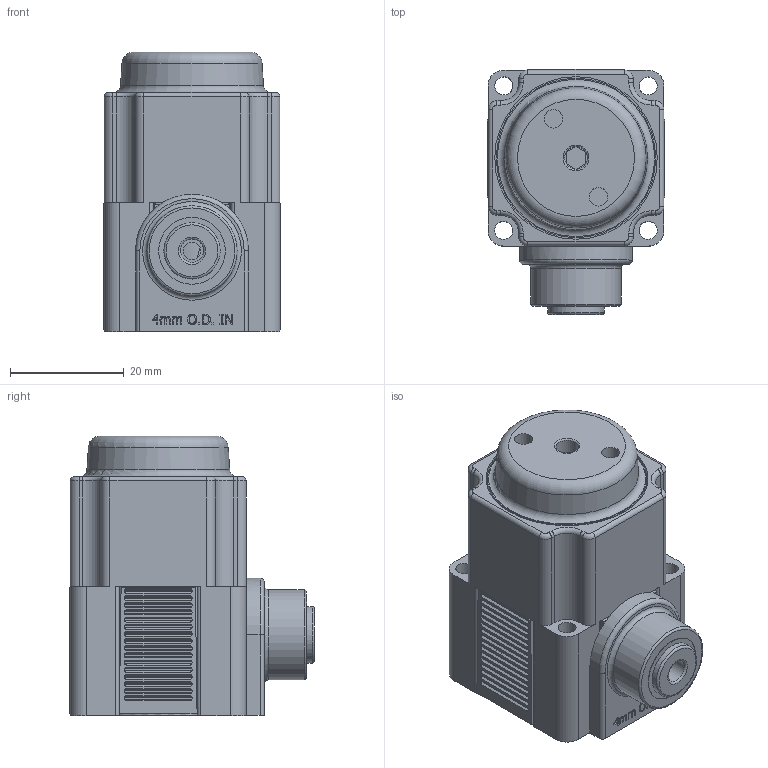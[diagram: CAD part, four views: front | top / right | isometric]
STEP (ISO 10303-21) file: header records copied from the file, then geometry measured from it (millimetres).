
FILE_DESCRIPTION(/* description */ (''),/* implementation_level */ '2;1');
FILE_NAME(/* name */ 'K:\Normteile INVENTOR\Air-Logic\Regulators\PR7000\PR 7___ 7 Push-In Fitting for 4mm O.D Tube In.igs.ipt.stp',/* time_stamp */ '2020-05-27T10:54:13+02:00',/* author */ ('Paul'),/* organization */ (''),/* preprocessor_version */ 'ST-DEVELOPER v18',/* originating_system */ 'Autodesk Inventor 2020',/* authorisation */ '');
FILE_SCHEMA (('AUTOMOTIVE_DESIGN { 1 0 10303 214 3 1 1 }'));
Length unit declared in the file: inch
Products named in the file (1): PR 7___ 7 Push-In Fitting for 4mm O.D Tube In.igs
Bounding box: 31.19 x 43.08 x 49.15 mm (x, y, z)
Volume: 41980.3 mm3; surface area: 13206.2 mm2
Topology: 1 solids, 1 shells, 719 faces, 1870 edges, 1224 vertices
Faces by surface type: plane 378, cylinder 253, bspline 62, torus 24, cone 2
Full cylindrical faces by diameter (mm): 3.073 x1, 3.175 x4, 3.226 x2, 4.013 x1, 4.089 x1, 6.045 x1, 9.169 x1, 9.398 x1, 9.906 x1, 11.735 x1, 12.903 x1, 15.85 x1, 26.264 x1, 28.047 x1, 28.575 x1
Entity records: 24611 total; most frequent: CARTESIAN_POINT 5973, DIRECTION 3762, ORIENTED_EDGE 3740, EDGE_CURVE 1870, AXIS2_PLACEMENT_3D 1418, VERTEX_POINT 1224, LINE 926, VECTOR 926
